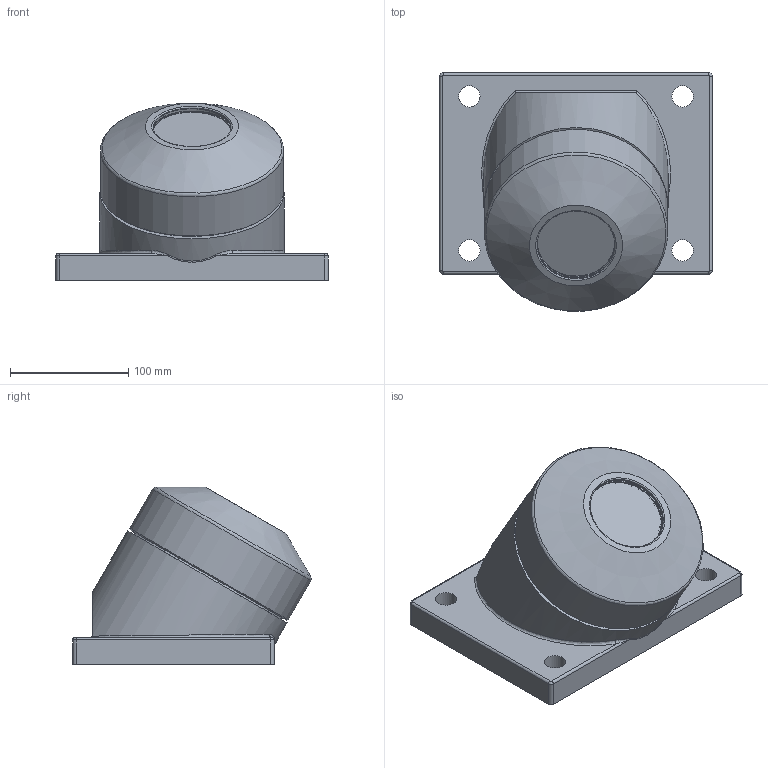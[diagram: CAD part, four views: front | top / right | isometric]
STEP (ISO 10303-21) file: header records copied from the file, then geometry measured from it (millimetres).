
FILE_DESCRIPTION(/* description */ (''),/* implementation_level */ '2;1');
FILE_NAME(/* name */ 'Z:\34-Tei\01-web 3Dデータ\SW車輪\SW-150-I.stp',/* time_stamp */ '2015-03-17T16:46:03+09:00',/* author */ ('yamaki'),/* organization */ (''),/* preprocessor_version */ 'ST-DEVELOPER v15.6',/* originating_system */ 'Autodesk Inventor 2015',/* authorisation */ '');
FILE_SCHEMA (('AUTOMOTIVE_DESIGN { 1 0 10303 214 3 1 1 }'));
Length unit declared in the file: centimetre
Products named in the file (1): SW-150-I
Bounding box: 230 x 201.52 x 149.94 mm (x, y, z)
Volume: 2138640.1 mm3; surface area: 247284.5 mm2
Topology: 1 solids, 3 shells, 111 faces, 227 edges, 144 vertices
Faces by surface type: cylinder 42, plane 35, cone 15, bspline 11, torus 8
Full cylindrical faces by diameter (mm): 5 x1, 8 x1, 18 x4, 25 x2, 29 x2, 30 x2, 36 x1, 37 x1, 56 x1, 58 x2, 60 x1, 62 x1, 62.1 x1, 63 x1, 65.2 x1, 66 x2, 68 x1, 85 x1, 119 x1, 125.1 x1, 134 x1, 155 x1, 155.5 x1
Entity records: 3313 total; most frequent: CARTESIAN_POINT 1063, DIRECTION 460, ORIENTED_EDGE 318, AXIS2_PLACEMENT_3D 218, EDGE_LOOP 200, EDGE_CURVE 159, VERTEX_POINT 131, STYLED_ITEM 112
